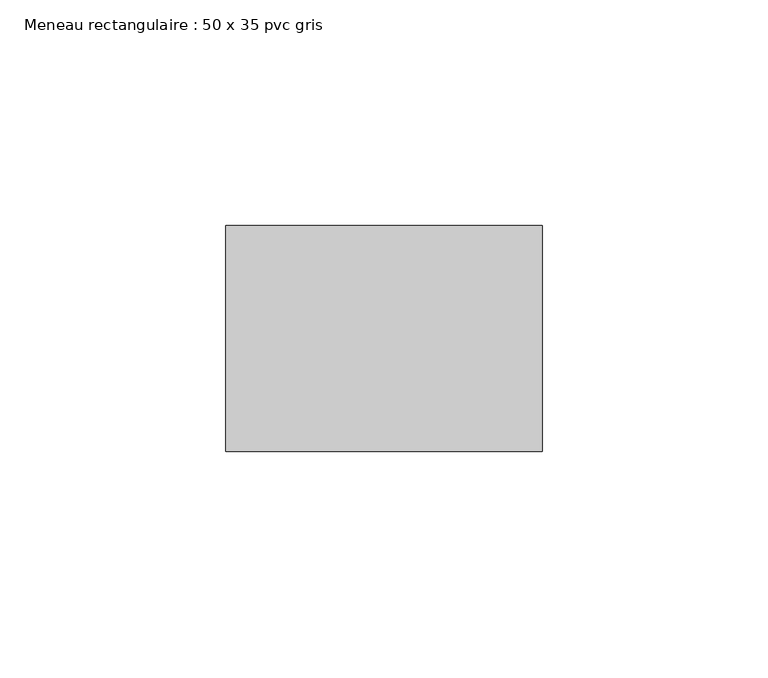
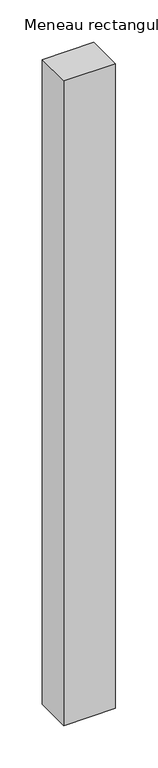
"""IFC4 building model written with IfcOpenShell, lengths in millimetres: member geometry, Meneau rectangulaire : 50 x 35 pvc gris."""

import ifcopenshell
import ifcopenshell.guid

model = None  # the IFC model being written
_history = None  # IfcOwnerHistory: only IFC2X3 demands one
_inside = {}  # id of a spatial element -> (the spatial element, [elements in it])
_under = {}  # id of a project, library or spatial element -> (it, [spatial elements below it])
_declared = {}  # id of a project -> (the project, [libraries it declares])
_typed = {}  # id of a type object -> (the type object, [elements of that type])
_made_of = {}  # id of a material, layer set ... -> (it, [elements and type objects made of it])


def new_model(schema):
    """Start an empty IFC model of exactly this schema.

    Asked for "IFC4X3", IfcOpenShell would pick the latest addendum, in which some entities
    have other attributes; the version numbers below select the first issue.
    IFC2X3 requires an IfcOwnerHistory on every rooted entity: one is made here for all.
    """
    global model, _history
    if schema == "IFC4X3":
        model = ifcopenshell.file(schema_version=(4, 3, 0, 0))
    else:
        model = ifcopenshell.file(schema=schema)
    _inside.clear()
    _under.clear()
    _declared.clear()
    _typed.clear()
    _made_of.clear()
    _history = None
    if model.schema == "IFC2X3":
        org = make("IfcOrganization", Name="unknown")
        user = make(
            "IfcPersonAndOrganization",
            ThePerson=make("IfcPerson", FamilyName="unknown"),
            TheOrganization=org,
        )
        app = make(
            "IfcApplication",
            ApplicationDeveloper=org,
            Version="unknown",
            ApplicationFullName="unknown",
            ApplicationIdentifier="unknown",
        )
        _history = make(
            "IfcOwnerHistory",
            OwningUser=user,
            OwningApplication=app,
            ChangeAction="ADDED",
            CreationDate=0,
        )
    return model


def make(cls, **values):
    """One entity of the class cls with the attributes given. An attribute that is None is left unset."""
    return model.create_entity(
        cls, **{name: value for name, value in values.items() if value is not None}
    )


def rooted(cls, **values):
    """An entity with a GlobalId (a new one), such as an element, a storey or a relation."""
    return make(cls, GlobalId=ifcopenshell.guid.new(), OwnerHistory=_history, **values)


def si_unit(unit_type, name, prefix=None):
    """IfcSIUnit, for example si_unit("LENGTHUNIT", "METRE", prefix="MILLI")."""
    return make("IfcSIUnit", UnitType=unit_type, Prefix=prefix, Name=name)


def assignment(units):
    """IfcUnitAssignment: the units of a project."""
    return None if units is None else make("IfcUnitAssignment", Units=units)


def point(xyz):
    """IfcCartesianPoint."""
    return None if xyz is None else make("IfcCartesianPoint", Coordinates=xyz)


def direction(xyz):
    """IfcDirection."""
    return None if xyz is None else make("IfcDirection", DirectionRatios=xyz)


def frame(location, z_axis=None, x_axis=None):
    """IfcAxis2Placement3D, a coordinate frame: its origin and axes. An axis left out is left unset."""
    return make(
        "IfcAxis2Placement3D",
        Location=point(location),
        Axis=direction(z_axis),
        RefDirection=direction(x_axis),
    )


def origin():
    """The frame at (0, 0, 0) with its axes left unset."""
    return frame((0.0, 0.0, 0.0))


def place(relative_to, where):
    """IfcLocalPlacement: puts the frame where relative to a parent placement (None: the world)."""
    return make(
        "IfcLocalPlacement", PlacementRelTo=relative_to, RelativePlacement=where
    )


def context(
    kind, dimensions, precision=None, world=None, true_north=None, identifier=None
):
    """IfcGeometricRepresentationContext, for example the 3D "Model" context."""
    return make(
        "IfcGeometricRepresentationContext",
        ContextIdentifier=identifier,
        ContextType=kind,
        CoordinateSpaceDimension=dimensions,
        Precision=precision,
        WorldCoordinateSystem=world,
        TrueNorth=true_north,
    )


def project(units=None, contexts=None):
    """IfcProject with its units and contexts."""
    return rooted(
        "IfcProject",
        Name="project",
        RepresentationContexts=contexts,
        UnitsInContext=assignment(units),
    )


def spatial(cls, under=None, at=None, **own):
    """A site, building, storey or space (cls), placed at a placement, below another one or the project."""
    s = rooted(cls, ObjectPlacement=at, **own)
    if under is not None:
        _under.setdefault(under.id(), (under, []))[1].append(s)
    return s


def polyline(points):
    """IfcPolyline through the points."""
    return make("IfcPolyline", Points=[point(p) for p in points])


def outline(outer, holes=None, kind="AREA"):
    """IfcArbitraryClosedProfileDef: a profile drawn as a closed curve; with holes, ...WithVoids."""
    if holes is None:
        return make("IfcArbitraryClosedProfileDef", ProfileType=kind, OuterCurve=outer)
    return make(
        "IfcArbitraryProfileDefWithVoids",
        ProfileType=kind,
        OuterCurve=outer,
        InnerCurves=holes,
    )


def extrude(swept, where, along, depth):
    """IfcExtrudedAreaSolid: the profile swept, set in the frame where, extruded along a direction by depth."""
    return make(
        "IfcExtrudedAreaSolid",
        SweptArea=swept,
        Position=where,
        ExtrudedDirection=direction(along),
        Depth=depth,
    )


def shape(context_of_items, identifier, shape_type, items):
    """IfcShapeRepresentation: the items that make up one representation, for example the "Body"."""
    return make(
        "IfcShapeRepresentation",
        ContextOfItems=context_of_items,
        RepresentationIdentifier=identifier,
        RepresentationType=shape_type,
        Items=items,
    )


def source(mapping_origin, context_of_items, identifier, shape_type, items):
    """IfcRepresentationMap: a shape defined once, which mapped items show again and again."""
    return make(
        "IfcRepresentationMap",
        MappingOrigin=mapping_origin,
        MappedRepresentation=shape(context_of_items, identifier, shape_type, items),
    )


def transform(
    local_origin,
    x_axis=None,
    y_axis=None,
    z_axis=None,
    scale=None,
    scale2=None,
    scale3=None,
    uniform=True,
):
    """IfcCartesianTransformationOperator3D, or its non-uniform kind. x_axis, y_axis, z_axis: its Axis1, 2, 3."""
    if uniform:
        return make(
            "IfcCartesianTransformationOperator3D",
            Axis1=direction(x_axis),
            Axis2=direction(y_axis),
            LocalOrigin=point(local_origin),
            Scale=scale,
            Axis3=direction(z_axis),
        )
    return make(
        "IfcCartesianTransformationOperator3DnonUniform",
        Axis1=direction(x_axis),
        Axis2=direction(y_axis),
        LocalOrigin=point(local_origin),
        Scale=scale,
        Axis3=direction(z_axis),
        Scale2=scale2,
        Scale3=scale3,
    )


def mapped(mapping_source, mapping_target):
    """IfcMappedItem: shows the shape of a source again, moved by a transform."""
    return make(
        "IfcMappedItem", MappingSource=mapping_source, MappingTarget=mapping_target
    )


def made_of(thing, what):
    """Note that an element or type object is made of a material, layer set ...; save() writes the relation."""
    if what is not None:
        _made_of.setdefault(what.id(), (what, []))[1].append(thing)
    return thing


def element(
    cls,
    number,
    at=None,
    inside=None,
    cuts=None,
    type_object=None,
    material=None,
    context=None,
    identifier="Body",
    shape_type=None,
    held_by="IfcProductDefinitionShape",
    body=None,
    shapes=None,
    **own,
):
    """One element of the class cls, such as IfcWall. Its Tag is "e" and its number.

    at: its placement. inside: the storey or other place that contains it. cuts: it is an
    opening in that element (IfcRelVoidsElement). A single representation is given by context,
    identifier, shape_type and body (its items); several are given by shapes. held_by: the class
    of the entity that holds the representations. save() writes the other relations.
    """
    e = rooted(cls, Tag="e%d" % number, ObjectPlacement=at, **own)
    if body is not None:
        shapes = [shape(context, identifier, shape_type, body)]
    if shapes is not None:
        e.Representation = make(held_by, Representations=shapes)
    if inside is not None:
        _inside.setdefault(inside.id(), (inside, []))[1].append(e)
    if cuts is not None:
        rooted(
            "IfcRelVoidsElement", RelatingBuildingElement=cuts, RelatedOpeningElement=e
        )
    if type_object is not None:
        _typed.setdefault(type_object.id(), (type_object, []))[1].append(e)
    return made_of(e, material)


def aggregate(whole, parts):
    """IfcRelAggregates: a whole, such as a stair, and the parts it consists of."""
    return rooted("IfcRelAggregates", RelatingObject=whole, RelatedObjects=parts)


def save(model, path):
    """Write the relations noted so far, then the file.

    IfcRelAggregates (storeys below a building ...), IfcRelContainedInSpatialStructure (elements
    in a storey), IfcRelDefinesByType, IfcRelAssociatesMaterial and IfcRelDeclares: one each for
    every whole, place, type object, material and project.
    """
    for whole, parts in _under.values():
        aggregate(whole, parts)
    for where, things in _inside.values():
        rooted(
            "IfcRelContainedInSpatialStructure",
            RelatedElements=things,
            RelatingStructure=where,
        )
    for kind, things in _typed.values():
        rooted("IfcRelDefinesByType", RelatedObjects=things, RelatingType=kind)
    for what, things in _made_of.values():
        rooted("IfcRelAssociatesMaterial", RelatedObjects=things, RelatingMaterial=what)
    for by, libraries in _declared.values():
        rooted("IfcRelDeclares", RelatingContext=by, RelatedDefinitions=libraries)
    model.write(path)


def meneau_rectangulaire_50_x_35_pvc_gris_e80b5c9b(model_context):
    return source(origin(), model_context, "Body", "SweptSolid", [
        extrude(outline(polyline([(0.0, 0.0), (0.0, -50.0), (-70.0, -50.0), (-70.0, 0.0), (0.0, 0.0)])), frame((0.0, 0.0, -926.9604608), z_axis=(0.0, 0.0, 1.0), x_axis=(1.0, 0.0, 0.0)), (0.0, 0.0, 1.0), 926.9604608),
    ])


if __name__ == "__main__":
    model = new_model("IFC4")
    model_context = context("Model", 3, world=origin())
    ifc_project = project(units=[si_unit("LENGTHUNIT", "METRE", prefix="MILLI")], contexts=[model_context])
    site = spatial("IfcSite", under=ifc_project)
    building = spatial("IfcBuilding", under=site)
    placement = place(None, origin())
    meneau_rectangulaire_50_x_35_pvc_gris_shape = meneau_rectangulaire_50_x_35_pvc_gris_e80b5c9b(model_context)
    element("IfcMember", 1, ObjectType="Meneau rectangulaire : 50 x 35 pvc gris", at=placement, inside=building, context=model_context, shape_type="MappedRepresentation", body=[
        mapped(meneau_rectangulaire_50_x_35_pvc_gris_shape, transform((0.0, 0.0, 0.0), x_axis=(1.0, 0.0, 0.0), y_axis=(0.0, 1.0, 0.0), z_axis=(0.0, 0.0, 1.0))),
    ])
    save(model, "model.ifc")
